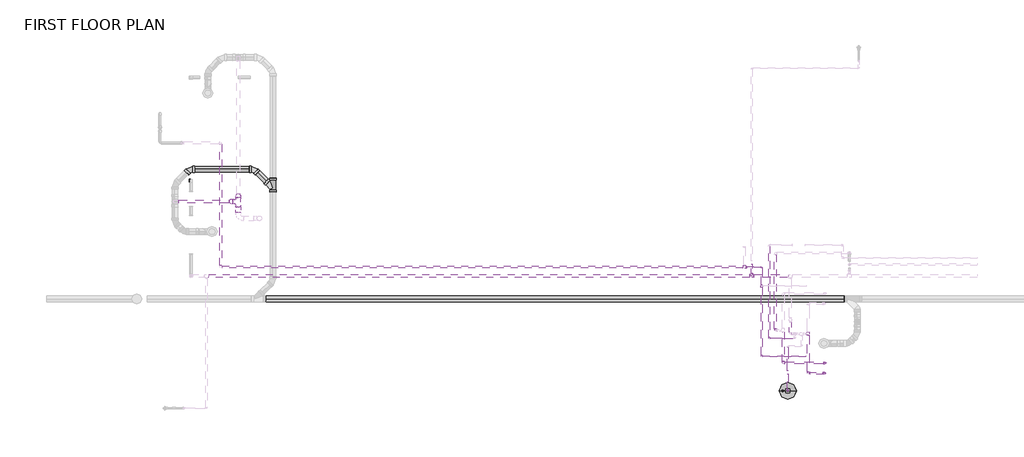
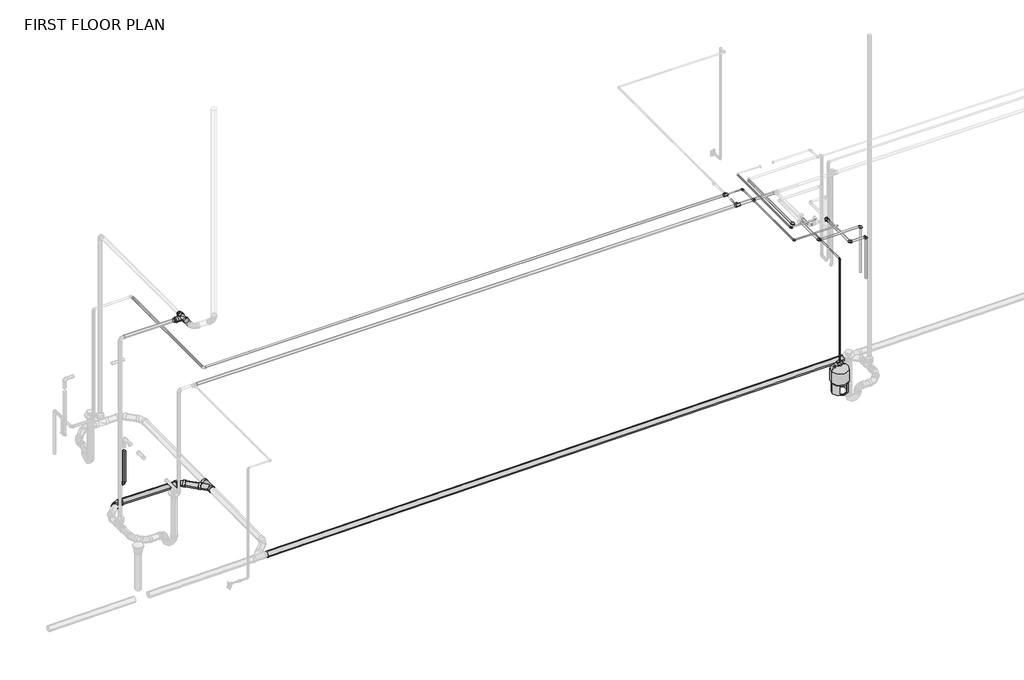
# One storey, part 3 of 9: 29 pipe segments, 24 pipe fittings, 1 proxy.
"""IFC4 building model written with IfcOpenShell, lengths in millimetres."""

from ifc_helpers import new_model, si_unit, point, frame, frame_2d, origin, place, context, project, spatial, circle_curve, trimmed, segment, composite_curve, outline, extrude, transform, mapped, element, save
from components import tank_expansion_taco_pax_error_load_type_catalog_ec3dda8b, bend_pvc_sch_40_dwv_standard_d299c5eb, bend_pvc_sch_40_dwv_standard_6f29ffc9, ges_wye_45_deg_reducing_pvc_sch_40_dwv_standard_d5e102ba, pipe_elbow_copper_k_764eecca, pipe_elbow_copper_k_feaaf02c, pipe_elbow_copper_k_557be1fc, pipe_elbow_copper_k_d9236e9c, pipe_tee_copper_k_36278b8a, pipe_tee_copper_k_7127fd44, pipe_tee_copper_k_ee363fbf, pipe_transition_copper_k_d15df449, pipe_transition_copper_k_5615079d, pipe_transition_copper_k_6dd60ac0, pipe_transition_copper_k_46d96269, reducer_pvc_sch_40_dwv_standard_464ee0c2, reducer_pvc_sch_40_dwv_standard_44865e00, tee_sanitary_pvc_sch_40_dwv_standard_d77f13d0

model = new_model("IFC4")

# Units and contexts
model_context = context("Model", 3, world=origin())
ifc_project = project(units=[si_unit("LENGTHUNIT", "METRE", prefix="MILLI")], contexts=[model_context])

# Site, building, storey
site = spatial("IfcSite", under=ifc_project)
building = spatial("IfcBuilding", under=site)
storey = spatial("IfcBuildingStorey", under=building, Name="FIRST FLOOR PLAN", Elevation=0.0)

# Proxy
placement = place(None, origin())
tank_expansion_taco_pax_error_load_type_catalog_shape = tank_expansion_taco_pax_error_load_type_catalog_ec3dda8b(model_context)
element("IfcBuildingElementProxy", 1, Name="Tank-Expansion-Taco-PAX : ERROR_LOAD TYPE CATALOG", ObjectType="Tank-Expansion-Taco-PAX : ERROR_LOAD TYPE CATALOG", at=placement, inside=storey, context=model_context, shape_type="MappedRepresentation", body=[
    mapped(tank_expansion_taco_pax_error_load_type_catalog_shape, transform((-1749.0378963, 3347.310529, -16.0176562), x_axis=(1.0, 0.0, 0.0), y_axis=(0.0, 1.0, 0.0), z_axis=(0.0, 0.0, 1.0))),
])

# Pipe fittings
bend_pvc_sch_40_dwv_standard_shape = bend_pvc_sch_40_dwv_standard_d299c5eb(model_context)
element("IfcPipeFitting", 2, ObjectType="Bend - PVC - Sch 40 - DWV : Standard", at=placement, inside=storey, context=model_context, shape_type="MappedRepresentation", body=[
    mapped(bend_pvc_sch_40_dwv_standard_shape, transform((-13954.9204409, 7876.5190491, -919.4185554), x_axis=(-0.9999457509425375, 0.0, 0.010416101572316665), y_axis=(4.493975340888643e-05, -0.9999906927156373, 0.004314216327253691), z_axis=(0.010416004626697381, 0.00431445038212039, 0.9999364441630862))),
])
bend_pvc_sch_40_dwv_standard_2_shape = bend_pvc_sch_40_dwv_standard_6f29ffc9(model_context)
element("IfcPipeFitting", 3, ObjectType="Bend - PVC - Sch 40 - DWV : Standard", at=placement, inside=storey, context=model_context, shape_type="MappedRepresentation", body=[
    mapped(bend_pvc_sch_40_dwv_standard_2_shape, transform((-12645.3324902, 7876.5190491, -933.0600965), x_axis=(-0.7070634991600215, 0.7070839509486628, 0.00966925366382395), y_axis=(-0.7070733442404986, -0.7071221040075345, 0.0050612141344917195), z_axis=(0.010416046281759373, -0.0032582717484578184, 0.9999404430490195))),
])
ges_wye_45_deg_reducing_pvc_sch_40_dwv_standard_shape = ges_wye_45_deg_reducing_pvc_sch_40_dwv_standard_d5e102ba(model_context)
element("IfcPipeFitting", 4, ObjectType="GES Wye 45 Deg Reducing - PVC - Sch 40 - DWV : Standard", at=placement, inside=storey, context=model_context, shape_type="MappedRepresentation", body=[
    mapped(ges_wye_45_deg_reducing_pvc_sch_40_dwv_standard_shape, transform((-12259.2496823, 7490.4250738, -938.3398664), x_axis=(0.0, 0.9999457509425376, 0.010416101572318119), y_axis=(0.9999946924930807, 3.3936332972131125e-05, -0.0032578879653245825), z_axis=(-0.0032580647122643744, 0.01041604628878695, -0.9999404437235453))),
])
pipe_elbow_copper_k_shape = pipe_elbow_copper_k_764eecca(model_context)
element("IfcPipeFitting", 5, ObjectType="Pipe Elbow : Copper- K", at=placement, inside=storey, context=model_context, shape_type="MappedRepresentation", body=[
    mapped(pipe_elbow_copper_k_shape, transform((-13933.0661682, 7642.1354003, -345.0294199), x_axis=(0.0, 0.0, -1.0), y_axis=(-1.0, 0.0, 0.0), z_axis=(0.0, 1.0, 0.0))),
])
pipe_elbow_copper_k_2_shape = pipe_elbow_copper_k_feaaf02c(model_context)
element("IfcPipeFitting", 6, ObjectType="Pipe Elbow : Copper- K", at=placement, inside=storey, context=model_context, shape_type="MappedRepresentation", body=[
    mapped(pipe_elbow_copper_k_2_shape, transform((-2130.0378963, 4419.3099803, 3007.2210937), x_axis=(0.0, -1.0, 0.0), y_axis=(1.0, 0.0, 0.0), z_axis=(0.0, 0.0, 1.0))),
])
element("IfcPipeFitting", 7, ObjectType="Pipe Elbow : Copper- K", at=placement, inside=storey, context=model_context, shape_type="MappedRepresentation", body=[
    mapped(pipe_elbow_copper_k_2_shape, transform((-2282.4378963, 5875.2835918, 3007.8164062), x_axis=(0.0, 1.0, 0.0), y_axis=(-1.0, 0.0, 0.0), z_axis=(0.0, 0.0, 1.0))),
])
element("IfcPipeFitting", 8, ObjectType="Pipe Elbow : Copper- K", at=placement, inside=storey, context=model_context, shape_type="MappedRepresentation", body=[
    mapped(pipe_elbow_copper_k_2_shape, transform((-2282.4378963, 4052.1605294, 3007.8164062), x_axis=(0.0, -1.0, 0.0), y_axis=(1.0, 0.0, 0.0), z_axis=(0.0, 0.0, 1.0))),
])
element("IfcPipeFitting", 9, ObjectType="Pipe Elbow : Copper- K", at=placement, inside=storey, context=model_context, shape_type="MappedRepresentation", body=[
    mapped(pipe_elbow_copper_k_2_shape, transform((-1749.0378963, 3347.310529, 2847.578125), x_axis=(0.0, 0.0, 1.0), y_axis=(0.0, 1.0, 0.0), z_axis=(-1.0, 0.0, 0.0))),
])
pipe_elbow_copper_k_3_shape = pipe_elbow_copper_k_557be1fc(model_context)
element("IfcPipeFitting", 10, ObjectType="Pipe Elbow : Copper- K", at=placement, inside=storey, context=model_context, shape_type="MappedRepresentation", body=[
    mapped(pipe_elbow_copper_k_3_shape, transform((-989.5398963, 3915.8774765, 2942.828125), x_axis=(0.0, 0.0, 1.0), y_axis=(-1.0, 0.0, 0.0), z_axis=(0.0, -1.0, 0.0))),
])
element("IfcPipeFitting", 11, ObjectType="Pipe Elbow : Copper- K", at=placement, inside=storey, context=model_context, shape_type="MappedRepresentation", body=[
    mapped(pipe_elbow_copper_k_3_shape, transform((-1331.5598228, 3707.8122305, 2847.5409205), x_axis=(0.0, -0.9999999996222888, -2.748494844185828e-05), y_axis=(0.9999999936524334, -3.096802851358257e-09, 0.00011267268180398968), z_axis=(-0.00011267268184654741, -2.748494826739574e-05, 0.9999999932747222))),
])
element("IfcPipeFitting", 12, ObjectType="Pipe Elbow : Copper- K", at=placement, inside=storey, context=model_context, shape_type="MappedRepresentation", body=[
    mapped(pipe_elbow_copper_k_3_shape, transform((-1844.2878963, 3915.8774765, 2942.828125), x_axis=(0.0, -1.0, 0.0), y_axis=(1.0, 0.0, 0.0), z_axis=(0.0, 0.0, 1.0))),
])
element("IfcPipeFitting", 13, ObjectType="Pipe Elbow : Copper- K", at=placement, inside=storey, context=model_context, shape_type="MappedRepresentation", body=[
    mapped(pipe_elbow_copper_k_3_shape, transform((-2003.0378963, 4586.9377286, 2942.828125), x_axis=(0.0, -1.0, 0.0), y_axis=(1.0, 0.0, 0.0), z_axis=(0.0, 0.0, 1.0))),
])
pipe_elbow_copper_k_4_shape = pipe_elbow_copper_k_d9236e9c(model_context)
element("IfcPipeFitting", 14, ObjectType="Pipe Elbow : Copper- K", at=placement, inside=storey, context=model_context, shape_type="MappedRepresentation", body=[
    mapped(pipe_elbow_copper_k_4_shape, transform((-1001.3598228, 3707.8122306, 2847.578125), x_axis=(0.9999999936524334, 0.0, 0.00011267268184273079), y_axis=(-0.00011267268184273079, 0.0, 0.9999999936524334), z_axis=(0.0, -1.0, 0.0))),
])
pipe_tee_copper_k_shape = pipe_tee_copper_k_36278b8a(model_context)
element("IfcPipeFitting", 15, ObjectType="Pipe Tee : Copper- K", at=placement, inside=storey, context=model_context, shape_type="MappedRepresentation", body=[
    mapped(pipe_tee_copper_k_shape, transform((-2485.6378963, 5696.5205406, 2847.5440079), x_axis=(1.0, 0.0, 0.0), y_axis=(0.0, -1.0, 0.0), z_axis=(0.0, 0.0, -1.0))),
])
pipe_tee_copper_k_2_shape = pipe_tee_copper_k_7127fd44(model_context)
element("IfcPipeFitting", 16, ObjectType="Pipe Tee : Copper- K", at=placement, inside=storey, context=model_context, shape_type="MappedRepresentation", body=[
    mapped(pipe_tee_copper_k_2_shape, transform((-2631.2139631, 5875.2835918, 3007.8164062), x_axis=(-1.0, 0.0, 0.0), y_axis=(0.0, -1.0, 0.0), z_axis=(0.0, 0.0, 1.0))),
])
pipe_tee_copper_k_3_shape = pipe_tee_copper_k_ee363fbf(model_context)
element("IfcPipeFitting", 17, ObjectType="Pipe Tee : Copper- K", at=placement, inside=storey, context=model_context, shape_type="MappedRepresentation", body=[
    mapped(pipe_tee_copper_k_3_shape, transform((-2282.4378963, 5488.2979913, 3007.8164062), x_axis=(0.0, 1.0, 0.0), y_axis=(-1.0, 0.0, 0.0), z_axis=(0.0, 0.0, 1.0))),
])
element("IfcPipeFitting", 18, ObjectType="Pipe Tee : Copper- K", at=placement, inside=storey, context=model_context, shape_type="MappedRepresentation", body=[
    mapped(pipe_tee_copper_k_2_shape, transform((-1331.5598228, 4515.7105293, 2847.5620266), x_axis=(0.0, 0.9999999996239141, 2.742575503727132e-05), y_axis=(0.9999999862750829, -4.54389676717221e-09, 0.0001656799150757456), z_axis=(0.0001656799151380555, 2.7425754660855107e-05, -0.9999999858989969))),
])
pipe_transition_copper_k_shape = pipe_transition_copper_k_d15df449(model_context)
element("IfcPipeFitting", 19, ObjectType="Pipe Transition : Copper- K", at=placement, inside=storey, context=model_context, shape_type="MappedRepresentation", body=[
    mapped(pipe_transition_copper_k_shape, transform((-2594.7014631, 5875.2835918, 3007.8164062), x_axis=(1.0, 0.0, 0.0), y_axis=(0.0, 1.0, 0.0), z_axis=(0.0, 0.0, 1.0))),
])
pipe_transition_copper_k_2_shape = pipe_transition_copper_k_5615079d(model_context)
element("IfcPipeFitting", 20, ObjectType="Pipe Transition : Copper- K", at=placement, inside=storey, context=model_context, shape_type="MappedRepresentation", body=[
    mapped(pipe_transition_copper_k_2_shape, transform((-2631.2139631, 5911.7960918, 3007.8164062), x_axis=(0.0, 1.0, 0.0), y_axis=(-1.0, 0.0, 0.0), z_axis=(0.0, 0.0, 1.0))),
])
pipe_transition_copper_k_3_shape = pipe_transition_copper_k_6dd60ac0(model_context)
element("IfcPipeFitting", 21, ObjectType="Pipe Transition : Copper- K", at=placement, inside=storey, context=model_context, shape_type="MappedRepresentation", body=[
    mapped(pipe_transition_copper_k_3_shape, transform((-2485.6378963, 5739.3830406, 2847.5440079), x_axis=(0.0, 1.0, 0.0), y_axis=(-1.0, 0.0, 0.0), z_axis=(0.0, 0.0, 1.0))),
])
pipe_transition_copper_k_4_shape = pipe_transition_copper_k_46d96269(model_context)
element("IfcPipeFitting", 22, ObjectType="Pipe Transition : Copper- K", at=placement, inside=storey, context=model_context, shape_type="MappedRepresentation", body=[
    mapped(pipe_transition_copper_k_4_shape, transform((-1749.0378963, 3347.310529, 631.6823438), x_axis=(0.0, 0.0, 1.0), y_axis=(-1.0, 0.0, 0.0), z_axis=(0.0, -1.0, 0.0))),
])
reducer_pvc_sch_40_dwv_standard_shape = reducer_pvc_sch_40_dwv_standard_464ee0c2(model_context)
element("IfcPipeFitting", 23, ObjectType="Reducer - PVC - Sch 40 - DWV : Standard", at=placement, inside=storey, context=model_context, shape_type="MappedRepresentation", body=[
    mapped(reducer_pvc_sch_40_dwv_standard_shape, transform((-13083.506628, 7216.9695777, 3161.3113281), x_axis=(-1.0, 0.0, 0.0), y_axis=(0.0, -0.9999999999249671, -1.2250138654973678e-05), z_axis=(0.0, -1.2250138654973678e-05, 0.9999999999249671))),
])
reducer_pvc_sch_40_dwv_standard_2_shape = reducer_pvc_sch_40_dwv_standard_44865e00(model_context)
element("IfcPipeFitting", 24, ObjectType="Reducer - PVC - Sch 40 - DWV : Standard", at=placement, inside=storey, context=model_context, shape_type="MappedRepresentation", body=[
    mapped(reducer_pvc_sch_40_dwv_standard_2_shape, transform((-12967.606428, 7380.4693777, 3161.3123193), x_axis=(0.0, -0.9999999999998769, 4.962133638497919e-07), y_axis=(1.0, 0.0, 0.0), z_axis=(0.0, 4.962133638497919e-07, 0.9999999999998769))),
])
tee_sanitary_pvc_sch_40_dwv_standard_shape = tee_sanitary_pvc_sch_40_dwv_standard_d77f13d0(model_context)
element("IfcPipeFitting", 25, ObjectType="Tee Sanitary - PVC - Sch 40 - DWV : Standard", at=placement, inside=storey, context=model_context, shape_type="MappedRepresentation", body=[
    mapped(tee_sanitary_pvc_sch_40_dwv_standard_shape, transform((-12967.606428, 7216.9695777, 3161.3113281), x_axis=(0.0, 0.9999999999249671, 1.2250138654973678e-05), y_axis=(1.0000000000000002, 0.0, 0.0), z_axis=(0.0, 1.2250138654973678e-05, -0.9999999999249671))),
])

# Pipe segments
element("IfcPipeSegment", 26, ObjectType="Cast Iron - VENT", at=placement, inside=storey, context=model_context, shape_type="SweptSolid", body=[
    extrude(outline(composite_curve([segment(trimmed(circle_curve(frame_2d((0.0, 30.1625)), 30.1625), [point((-30.1625, 30.1625))], [point((0.0, 60.325))], False, "CARTESIAN"), True, "CONTINUOUS"), segment(trimmed(circle_curve(frame_2d((0.0, 30.1625)), 30.1625), [point((0.0, 60.325))], [point((30.1625, 30.1625))], False, "CARTESIAN"), True, "CONTINUOUS"), segment(trimmed(circle_curve(frame_2d((0.0, 30.1625)), 30.1625), [point((30.1625, 30.1625))], [point((0.0, 0.0))], False, "CARTESIAN"), True, "CONTINUOUS"), segment(trimmed(circle_curve(frame_2d((0.0, 30.1625)), 30.1625), [point((0.0, 0.0))], [point((-30.1625, 30.1625))], False, "CARTESIAN"), True, "CONTINUOUS")], self_intersect=False)), frame((-13162.8826652, 7216.9695777, 3131.1488281), z_axis=(-0.9999999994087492, 0.0, 3.438752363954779e-05), x_axis=(0.0, -1.0, 0.0)), (0.0, 0.0, 1.0), 1019.2283469),
])
element("IfcPipeSegment", 27, ObjectType="Cast Iron - VENT", at=placement, inside=storey, context=model_context, shape_type="SweptSolid", body=[
    extrude(outline(composite_curve([segment(trimmed(circle_curve(frame_2d((3161.3099083, -12967.606428)), 50.403125), [point((3161.3099083, -13018.009553))], [point((3110.9067833, -12967.606428))], False, "CARTESIAN"), True, "CONTINUOUS"), segment(trimmed(circle_curve(frame_2d((3161.3099083, -12967.606428)), 50.403125), [point((3110.9067833, -12967.606428))], [point((3161.3099083, -12917.203303))], False, "CARTESIAN"), True, "CONTINUOUS"), segment(trimmed(circle_curve(frame_2d((3161.3099083, -12967.606428)), 50.403125), [point((3161.3099083, -12917.203303))], [point((3211.7130333, -12967.606428))], False, "CARTESIAN"), True, "CONTINUOUS"), segment(trimmed(circle_curve(frame_2d((3161.3099083, -12967.606428)), 50.403125), [point((3211.7130333, -12967.606428))], [point((3161.3099083, -13018.009553))], False, "CARTESIAN"), True, "CONTINUOUS")], self_intersect=False)), frame((0.0, 6988.7348554, 0.0), z_axis=(0.0, 1.0, 0.0), x_axis=(0.0, 0.0, 1.0)), (0.0, 0.0, 1.0), 112.3345223),
])
element("IfcPipeSegment", 28, ObjectType="Copper", at=placement, inside=storey, context=model_context, shape_type="SweptSolid", body=[
    extrude(outline(composite_curve([segment(trimmed(circle_curve(frame_2d((-13933.0661682, 7642.1354003)), 26.9875), [point((-13906.0786682, 7642.1354003))], [point((-13933.0661682, 7615.1479003))], False, "CARTESIAN"), True, "CONTINUOUS"), segment(trimmed(circle_curve(frame_2d((-13933.0661682, 7642.1354003)), 26.9875), [point((-13933.0661682, 7615.1479003))], [point((-13960.0536682, 7642.1354003))], False, "CARTESIAN"), True, "CONTINUOUS"), segment(trimmed(circle_curve(frame_2d((-13933.0661682, 7642.1354003)), 26.9875), [point((-13960.0536682, 7642.1354003))], [point((-13933.0661682, 7669.1229003))], False, "CARTESIAN"), True, "CONTINUOUS"), segment(trimmed(circle_curve(frame_2d((-13933.0661682, 7642.1354003)), 26.9875), [point((-13933.0661682, 7669.1229003))], [point((-13906.0786682, 7642.1354003))], False, "CARTESIAN"), True, "CONTINUOUS")], self_intersect=False)), frame((0.0, 0.0, -308.5169199), z_axis=(0.0, 0.0, 1.0), x_axis=(1.0, 0.0, 0.0)), (0.0, 0.0, 1.0), 668.9111699),
])
element("IfcPipeSegment", 29, ObjectType="Copper", at=placement, inside=storey, context=model_context, shape_type="SweptSolid", body=[
    extrude(outline(composite_curve([segment(trimmed(circle_curve(frame_2d((-989.5398963, 3915.8774765)), 20.6375), [point((-1010.1773963, 3915.8774765))], [point((-989.5398963, 3936.5149765))], False, "CARTESIAN"), True, "CONTINUOUS"), segment(trimmed(circle_curve(frame_2d((-989.5398963, 3915.8774765)), 20.6375), [point((-989.5398963, 3936.5149765))], [point((-968.9023963, 3915.8774765))], False, "CARTESIAN"), True, "CONTINUOUS"), segment(trimmed(circle_curve(frame_2d((-989.5398963, 3915.8774765)), 20.6375), [point((-968.9023963, 3915.8774765))], [point((-989.5398963, 3895.2399765))], False, "CARTESIAN"), True, "CONTINUOUS"), segment(trimmed(circle_curve(frame_2d((-989.5398963, 3915.8774765)), 20.6375), [point((-989.5398963, 3895.2399765))], [point((-1010.1773963, 3915.8774765))], False, "CARTESIAN"), True, "CONTINUOUS")], self_intersect=False)), frame((0.0, 0.0, 1952.228125), z_axis=(0.0, 0.0, 1.0), x_axis=(1.0, 0.0, 0.0)), (0.0, 0.0, 1.0), 960.4375),
])
element("IfcPipeSegment", 30, ObjectType="Copper", at=placement, inside=storey, context=model_context, shape_type="SweptSolid", body=[
    extrude(outline(composite_curve([segment(trimmed(circle_curve(frame_2d((3915.8774765, 2942.828125)), 20.6375), [point((3936.5149765, 2942.828125))], [point((3915.8774765, 2922.190625))], False, "CARTESIAN"), True, "CONTINUOUS"), segment(trimmed(circle_curve(frame_2d((3915.8774765, 2942.828125)), 20.6375), [point((3915.8774765, 2922.190625))], [point((3895.2399765, 2942.828125))], False, "CARTESIAN"), True, "CONTINUOUS"), segment(trimmed(circle_curve(frame_2d((3915.8774765, 2942.828125)), 20.6375), [point((3895.2399765, 2942.828125))], [point((3915.8774765, 2963.465625))], False, "CARTESIAN"), True, "CONTINUOUS"), segment(trimmed(circle_curve(frame_2d((3915.8774765, 2942.828125)), 20.6375), [point((3915.8774765, 2963.465625))], [point((3936.5149765, 2942.828125))], False, "CARTESIAN"), True, "CONTINUOUS")], self_intersect=False)), frame((-1814.1253963, 0.0, 0.0), z_axis=(1.0, 0.0, 0.0), x_axis=(0.0, 1.0, 0.0)), (0.0, 0.0, 1.0), 794.423),
])
element("IfcPipeSegment", 31, ObjectType="Copper", at=placement, inside=storey, context=model_context, shape_type="SweptSolid", body=[
    extrude(outline(composite_curve([segment(trimmed(circle_curve(frame_2d((2942.828125, -2003.0378963)), 20.6375), [point((2942.828125, -2023.6753963))], [point((2922.190625, -2003.0378963))], False, "CARTESIAN"), True, "CONTINUOUS"), segment(trimmed(circle_curve(frame_2d((2942.828125, -2003.0378963)), 20.6375), [point((2922.190625, -2003.0378963))], [point((2942.828125, -1982.4003963))], False, "CARTESIAN"), True, "CONTINUOUS"), segment(trimmed(circle_curve(frame_2d((2942.828125, -2003.0378963)), 20.6375), [point((2942.828125, -1982.4003963))], [point((2963.465625, -2003.0378963))], False, "CARTESIAN"), True, "CONTINUOUS"), segment(trimmed(circle_curve(frame_2d((2942.828125, -2003.0378963)), 20.6375), [point((2963.465625, -2003.0378963))], [point((2942.828125, -2023.6753963))], False, "CARTESIAN"), True, "CONTINUOUS")], self_intersect=False)), frame((0.0, 4617.1002286, 0.0), z_axis=(0.0, 1.0, 0.0), x_axis=(0.0, 0.0, 1.0)), (0.0, 0.0, 1.0), 1518.8959979),
])
element("IfcPipeSegment", 32, ObjectType="Copper", at=placement, inside=storey, context=model_context, shape_type="SweptSolid", body=[
    extrude(outline(composite_curve([segment(trimmed(circle_curve(frame_2d((2942.828125, -1844.2878963)), 20.6375), [point((2942.828125, -1864.9253963))], [point((2922.190625, -1844.2878963))], False, "CARTESIAN"), True, "CONTINUOUS"), segment(trimmed(circle_curve(frame_2d((2942.828125, -1844.2878963)), 20.6375), [point((2922.190625, -1844.2878963))], [point((2942.828125, -1823.6503963))], False, "CARTESIAN"), True, "CONTINUOUS"), segment(trimmed(circle_curve(frame_2d((2942.828125, -1844.2878963)), 20.6375), [point((2942.828125, -1823.6503963))], [point((2963.465625, -1844.2878963))], False, "CARTESIAN"), True, "CONTINUOUS"), segment(trimmed(circle_curve(frame_2d((2942.828125, -1844.2878963)), 20.6375), [point((2963.465625, -1844.2878963))], [point((2942.828125, -1864.9253963))], False, "CARTESIAN"), True, "CONTINUOUS")], self_intersect=False)), frame((0.0, 3946.0399765, 0.0), z_axis=(0.0, 1.0, 0.0), x_axis=(0.0, 0.0, 1.0)), (0.0, 0.0, 1.0), 604.3852521),
])
element("IfcPipeSegment", 33, ObjectType="Copper", at=placement, inside=storey, context=model_context, shape_type="SweptSolid", body=[
    extrude(outline(composite_curve([segment(trimmed(circle_curve(frame_2d((0.0, 20.6375)), 20.6375), [point((-20.6375, 20.6375))], [point((0.0, 41.275))], False, "CARTESIAN"), True, "CONTINUOUS"), segment(trimmed(circle_curve(frame_2d((0.0, 20.6375)), 20.6375), [point((0.0, 41.275))], [point((20.6375, 20.6375))], False, "CARTESIAN"), True, "CONTINUOUS"), segment(trimmed(circle_curve(frame_2d((0.0, 20.6375)), 20.6375), [point((20.6375, 20.6375))], [point((0.0, 0.0))], False, "CARTESIAN"), True, "CONTINUOUS"), segment(trimmed(circle_curve(frame_2d((0.0, 20.6375)), 20.6375), [point((0.0, 0.0))], [point((-20.6375, 20.6375))], False, "CARTESIAN"), True, "CONTINUOUS")], self_intersect=False)), frame((-1301.3949977, 3707.8122304, 2826.9068191), z_axis=(0.9999999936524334, 0.0, 0.00011267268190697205), x_axis=(0.0, 1.0, 0.0)), (0.0, 0.0, 1.0), 269.8716034),
])
element("IfcPipeSegment", 34, ObjectType="Copper", at=placement, inside=storey, context=model_context, shape_type="SweptSolid", body=[
    extrude(outline(composite_curve([segment(trimmed(circle_curve(frame_2d((-1001.3598228, 3707.8122306)), 20.6375), [point((-980.7223228, 3707.8122306))], [point((-1001.3598228, 3687.1747306))], False, "CARTESIAN"), True, "CONTINUOUS"), segment(trimmed(circle_curve(frame_2d((-1001.3598228, 3707.8122306)), 20.6375), [point((-1001.3598228, 3687.1747306))], [point((-1021.9973228, 3707.8122306))], False, "CARTESIAN"), True, "CONTINUOUS"), segment(trimmed(circle_curve(frame_2d((-1001.3598228, 3707.8122306)), 20.6375), [point((-1021.9973228, 3707.8122306))], [point((-1001.3598228, 3728.4497306))], False, "CARTESIAN"), True, "CONTINUOUS"), segment(trimmed(circle_curve(frame_2d((-1001.3598228, 3707.8122306)), 20.6375), [point((-1001.3598228, 3728.4497306))], [point((-980.7223228, 3707.8122306))], False, "CARTESIAN"), True, "CONTINUOUS")], self_intersect=False)), frame((0.0, 0.0, 1952.228125), z_axis=(0.0, 0.0, 1.0), x_axis=(1.0, 0.0, 0.0)), (0.0, 0.0, 1.0), 865.1841013),
])
element("IfcPipeSegment", 35, ObjectType="Copper", at=placement, inside=storey, context=model_context, shape_type="SweptSolid", body=[
    extrude(outline(composite_curve([segment(trimmed(circle_curve(frame_2d((0.0, -20.6375)), 20.6375), [point((0.0, 0.0))], [point((20.6375, -20.6375))], False, "CARTESIAN"), True, "CONTINUOUS"), segment(trimmed(circle_curve(frame_2d((0.0, -20.6375)), 20.6375), [point((20.6375, -20.6375))], [point((0.0, -41.275))], False, "CARTESIAN"), True, "CONTINUOUS"), segment(trimmed(circle_curve(frame_2d((0.0, -20.6375)), 20.6375), [point((0.0, -41.275))], [point((-20.6375, -20.6375))], False, "CARTESIAN"), True, "CONTINUOUS"), segment(trimmed(circle_curve(frame_2d((0.0, -20.6375)), 20.6375), [point((-20.6375, -20.6375))], [point((0.0, 0.0))], False, "CARTESIAN"), True, "CONTINUOUS")], self_intersect=False)), frame((-1352.1973228, 3737.9747305, 2847.5417495), z_axis=(0.0, 0.9999999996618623, 2.6005299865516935e-05), x_axis=(0.0, 2.6005299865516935e-05, -0.9999999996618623)), (0.0, 0.0, 1.0), 741.2232991),
])
element("IfcPipeSegment", 36, ObjectType="Copper", at=placement, inside=storey, context=model_context, shape_type="SweptSolid", body=[
    extrude(outline(composite_curve([segment(trimmed(circle_curve(frame_2d((0.0, -20.6375)), 20.6375), [point((0.0, 0.0))], [point((20.6374999, -20.6375))], False, "CARTESIAN"), True, "CONTINUOUS"), segment(trimmed(circle_curve(frame_2d((0.0, -20.6375)), 20.6375), [point((20.6374999, -20.6375))], [point((0.0, -41.275))], False, "CARTESIAN"), True, "CONTINUOUS"), segment(trimmed(circle_curve(frame_2d((0.0, -20.6375)), 20.6375), [point((0.0, -41.275))], [point((-20.6375, -20.6375))], False, "CARTESIAN"), True, "CONTINUOUS"), segment(trimmed(circle_curve(frame_2d((0.0, -20.6375)), 20.6375), [point((-20.6375, -20.6375))], [point((0.0, 0.0))], False, "CARTESIAN"), True, "CONTINUOUS")], self_intersect=False)), frame((-1718.8753963, 4545.8730293, 2847.5505568), z_axis=(0.0, 0.9999999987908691, 4.9175826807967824e-05), x_axis=(0.0, 4.9175826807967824e-05, -0.9999999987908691)), (0.0, 0.0, 1.0), 205.2804889),
])
element("IfcPipeSegment", 37, ObjectType="Copper", at=placement, inside=storey, context=model_context, shape_type="SweptSolid", body=[
    extrude(outline(composite_curve([segment(trimmed(circle_curve(frame_2d((3007.2210937, -2130.0378963)), 11.1125), [point((3007.2210937, -2141.1503963))], [point((2996.1085937, -2130.0378963))], False, "CARTESIAN"), True, "CONTINUOUS"), segment(trimmed(circle_curve(frame_2d((3007.2210937, -2130.0378963)), 11.1125), [point((2996.1085937, -2130.0378963))], [point((3007.2210937, -2118.9253963))], False, "CARTESIAN"), True, "CONTINUOUS"), segment(trimmed(circle_curve(frame_2d((3007.2210937, -2130.0378963)), 11.1125), [point((3007.2210937, -2118.9253963))], [point((3018.3335937, -2130.0378963))], False, "CARTESIAN"), True, "CONTINUOUS"), segment(trimmed(circle_curve(frame_2d((3007.2210937, -2130.0378963)), 11.1125), [point((3018.3335937, -2130.0378963))], [point((3007.2210937, -2141.1503963))], False, "CARTESIAN"), True, "CONTINUOUS")], self_intersect=False)), frame((0.0, 4439.9474803, 0.0), z_axis=(0.0, 1.0, 0.0), x_axis=(0.0, 0.0, 1.0)), (0.0, 0.0, 1.0), 1869.9162187),
])
element("IfcPipeSegment", 38, ObjectType="Copper", at=placement, inside=storey, context=model_context, shape_type="SweptSolid", body=[
    extrude(outline(composite_curve([segment(trimmed(circle_curve(frame_2d((4419.3099803, 3007.2210937)), 11.1125), [point((4408.1974803, 3007.2210937))], [point((4419.3099803, 3018.3335937))], False, "CARTESIAN"), True, "CONTINUOUS"), segment(trimmed(circle_curve(frame_2d((4419.3099803, 3007.2210937)), 11.1125), [point((4419.3099803, 3018.3335937))], [point((4430.4224803, 3007.2210937))], False, "CARTESIAN"), True, "CONTINUOUS"), segment(trimmed(circle_curve(frame_2d((4419.3099803, 3007.2210937)), 11.1125), [point((4430.4224803, 3007.2210937))], [point((4419.3099803, 2996.1085937))], False, "CARTESIAN"), True, "CONTINUOUS"), segment(trimmed(circle_curve(frame_2d((4419.3099803, 3007.2210937)), 11.1125), [point((4419.3099803, 2996.1085937))], [point((4408.1974803, 3007.2210937))], False, "CARTESIAN"), True, "CONTINUOUS")], self_intersect=False)), frame((-2109.4003963, 0.0, 0.0), z_axis=(1.0, 0.0, 0.0), x_axis=(0.0, 1.0, 0.0)), (0.0, 0.0, 1.0), 485.775),
])
element("IfcPipeSegment", 39, ObjectType="Copper", at=placement, inside=storey, context=model_context, shape_type="SweptSolid", body=[
    extrude(outline(composite_curve([segment(trimmed(circle_curve(frame_2d((5696.5205406, 2847.5440079)), 26.9875), [point((5723.5080406, 2847.5440079))], [point((5696.5205406, 2820.5565079))], False, "CARTESIAN"), True, "CONTINUOUS"), segment(trimmed(circle_curve(frame_2d((5696.5205406, 2847.5440079)), 26.9875), [point((5696.5205406, 2820.5565079))], [point((5669.5330406, 2847.5440079))], False, "CARTESIAN"), True, "CONTINUOUS"), segment(trimmed(circle_curve(frame_2d((5696.5205406, 2847.5440079)), 26.9875), [point((5669.5330406, 2847.5440079))], [point((5696.5205406, 2874.5315079))], False, "CARTESIAN"), True, "CONTINUOUS"), segment(trimmed(circle_curve(frame_2d((5696.5205406, 2847.5440079)), 26.9875), [point((5696.5205406, 2874.5315079))], [point((5723.5080406, 2847.5440079))], False, "CARTESIAN"), True, "CONTINUOUS")], self_intersect=False)), frame((-13574.0078963, 0.0, 0.0), z_axis=(1.0, 0.0, 0.0), x_axis=(0.0, 1.0, 0.0)), (0.0, 0.0, 1.0), 11045.5075),
])
element("IfcPipeSegment", 40, ObjectType="Copper", at=placement, inside=storey, context=model_context, shape_type="SweptSolid", body=[
    extrude(outline(composite_curve([segment(trimmed(circle_curve(frame_2d((3007.8164062, -13326.6545177)), 20.6375), [point((3007.8164062, -13347.2920177))], [point((2987.1789062, -13326.6545177))], False, "CARTESIAN"), True, "CONTINUOUS"), segment(trimmed(circle_curve(frame_2d((3007.8164062, -13326.6545177)), 20.6375), [point((2987.1789062, -13326.6545177))], [point((3007.8164062, -13306.0170177))], False, "CARTESIAN"), True, "CONTINUOUS"), segment(trimmed(circle_curve(frame_2d((3007.8164062, -13326.6545177)), 20.6375), [point((3007.8164062, -13306.0170177))], [point((3028.4539062, -13326.6545177))], False, "CARTESIAN"), True, "CONTINUOUS"), segment(trimmed(circle_curve(frame_2d((3007.8164062, -13326.6545177)), 20.6375), [point((3028.4539062, -13326.6545177))], [point((3007.8164062, -13347.2920177))], False, "CARTESIAN"), True, "CONTINUOUS")], self_intersect=False)), frame((0.0, 5905.4460918, 0.0), z_axis=(0.0, 1.0, 0.0), x_axis=(0.0, 0.0, 1.0)), (0.0, 0.0, 1.0), 2479.675),
])
element("IfcPipeSegment", 41, ObjectType="Copper", at=placement, inside=storey, context=model_context, shape_type="SweptSolid", body=[
    extrude(outline(composite_curve([segment(trimmed(circle_curve(frame_2d((5875.2835918, 3007.8164062)), 11.1125), [point((5864.1710918, 3007.8164062))], [point((5875.2835918, 3018.9289062))], False, "CARTESIAN"), True, "CONTINUOUS"), segment(trimmed(circle_curve(frame_2d((5875.2835918, 3007.8164062)), 11.1125), [point((5875.2835918, 3018.9289062))], [point((5886.3960918, 3007.8164062))], False, "CARTESIAN"), True, "CONTINUOUS"), segment(trimmed(circle_curve(frame_2d((5875.2835918, 3007.8164062)), 11.1125), [point((5886.3960918, 3007.8164062))], [point((5875.2835918, 2996.7039062))], False, "CARTESIAN"), True, "CONTINUOUS"), segment(trimmed(circle_curve(frame_2d((5875.2835918, 3007.8164062)), 11.1125), [point((5875.2835918, 2996.7039062))], [point((5864.1710918, 3007.8164062))], False, "CARTESIAN"), True, "CONTINUOUS")], self_intersect=False)), frame((-2584.3827131, 0.0, 0.0), z_axis=(1.0, 0.0, 0.0), x_axis=(0.0, 1.0, 0.0)), (0.0, 0.0, 1.0), 281.3073168),
])
element("IfcPipeSegment", 42, ObjectType="Copper", at=placement, inside=storey, context=model_context, shape_type="SweptSolid", body=[
    extrude(outline(composite_curve([segment(trimmed(circle_curve(frame_2d((4052.1605294, 3007.8164062)), 11.1125), [point((4041.0480294, 3007.8164062))], [point((4052.1605294, 3018.9289062))], False, "CARTESIAN"), True, "CONTINUOUS"), segment(trimmed(circle_curve(frame_2d((4052.1605294, 3007.8164062)), 11.1125), [point((4052.1605294, 3018.9289062))], [point((4063.2730294, 3007.8164062))], False, "CARTESIAN"), True, "CONTINUOUS"), segment(trimmed(circle_curve(frame_2d((4052.1605294, 3007.8164062)), 11.1125), [point((4063.2730294, 3007.8164062))], [point((4052.1605294, 2996.7039062))], False, "CARTESIAN"), True, "CONTINUOUS"), segment(trimmed(circle_curve(frame_2d((4052.1605294, 3007.8164062)), 11.1125), [point((4052.1605294, 2996.7039062))], [point((4041.0480294, 3007.8164062))], False, "CARTESIAN"), True, "CONTINUOUS")], self_intersect=False)), frame((-2261.8003963, 0.0, 0.0), z_axis=(1.0, 0.0, 0.0), x_axis=(0.0, 1.0, 0.0)), (0.0, 0.0, 1.0), 881.0625),
])
element("IfcPipeSegment", 43, ObjectType="Copper", at=placement, inside=storey, context=model_context, shape_type="SweptSolid", body=[
    extrude(outline(composite_curve([segment(trimmed(circle_curve(frame_2d((3007.8164062, -2282.4378963)), 11.1125), [point((3007.8164062, -2293.5503963))], [point((2996.7039062, -2282.4378963))], False, "CARTESIAN"), True, "CONTINUOUS"), segment(trimmed(circle_curve(frame_2d((3007.8164062, -2282.4378963)), 11.1125), [point((2996.7039062, -2282.4378963))], [point((3007.8164062, -2271.3253963))], False, "CARTESIAN"), True, "CONTINUOUS"), segment(trimmed(circle_curve(frame_2d((3007.8164062, -2282.4378963)), 11.1125), [point((3007.8164062, -2271.3253963))], [point((3018.9289062, -2282.4378963))], False, "CARTESIAN"), True, "CONTINUOUS"), segment(trimmed(circle_curve(frame_2d((3007.8164062, -2282.4378963)), 11.1125), [point((3018.9289062, -2282.4378963))], [point((3007.8164062, -2293.5503963))], False, "CARTESIAN"), True, "CONTINUOUS")], self_intersect=False)), frame((0.0, 4072.7980294, 0.0), z_axis=(0.0, 1.0, 0.0), x_axis=(0.0, 0.0, 1.0)), (0.0, 0.0, 1.0), 1388.512462),
])
element("IfcPipeSegment", 44, ObjectType="Copper", at=placement, inside=storey, context=model_context, shape_type="SweptSolid", body=[
    extrude(outline(composite_curve([segment(trimmed(circle_curve(frame_2d((5696.5205406, 2847.5440079)), 26.9875), [point((5723.5080406, 2847.5440079))], [point((5696.5205406, 2820.5565079))], False, "CARTESIAN"), True, "CONTINUOUS"), segment(trimmed(circle_curve(frame_2d((5696.5205406, 2847.5440079)), 26.9875), [point((5696.5205406, 2820.5565079))], [point((5669.5330406, 2847.5440079))], False, "CARTESIAN"), True, "CONTINUOUS"), segment(trimmed(circle_curve(frame_2d((5696.5205406, 2847.5440079)), 26.9875), [point((5669.5330406, 2847.5440079))], [point((5696.5205406, 2874.5315079))], False, "CARTESIAN"), True, "CONTINUOUS"), segment(trimmed(circle_curve(frame_2d((5696.5205406, 2847.5440079)), 26.9875), [point((5696.5205406, 2874.5315079))], [point((5723.5080406, 2847.5440079))], False, "CARTESIAN"), True, "CONTINUOUS")], self_intersect=False)), frame((-2442.7753963, 0.0, 0.0), z_axis=(1.0, 0.0, 0.0), x_axis=(0.0, 1.0, 0.0)), (0.0, 0.0, 1.0), 701.675),
])
element("IfcPipeSegment", 45, ObjectType="Copper", at=placement, inside=storey, context=model_context, shape_type="SweptSolid", body=[
    extrude(outline(composite_curve([segment(trimmed(circle_curve(frame_2d((-2e-07, -20.6375)), 20.6374998), [point((-20.6375, -20.6375))], [point((0.0, 0.0))], False, "CARTESIAN"), True, "CONTINUOUS"), segment(trimmed(circle_curve(frame_2d((-2e-07, -20.6375)), 20.6375), [point((0.0, 0.0))], [point((20.6375, -20.6375))], False, "CARTESIAN"), True, "CONTINUOUS"), segment(trimmed(circle_curve(frame_2d((-2e-07, -20.6375)), 20.6375002), [point((20.6375, -20.6375))], [point((0.0, -41.275))], False, "CARTESIAN"), True, "CONTINUOUS"), segment(trimmed(circle_curve(frame_2d((-2e-07, -20.6375)), 20.6375), [point((0.0, -41.275))], [point((-20.6375, -20.6375))], False, "CARTESIAN"), True, "CONTINUOUS")], self_intersect=False)), frame((-1668.0753963, 4515.7105293, 2826.9131395), z_axis=(1.0, 6.665118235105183e-09, 0.0), x_axis=(6.665118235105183e-09, -1.0, 0.0)), (0.0, 0.0, 1.0), 28.575),
])
element("IfcPipeSegment", 46, ObjectType="Copper", at=placement, inside=storey, context=model_context, shape_type="SweptSolid", body=[
    extrude(outline(composite_curve([segment(trimmed(circle_curve(frame_2d((2847.578125, -1749.0378963)), 11.1125), [point((2847.578125, -1760.1503963))], [point((2836.465625, -1749.0378963))], False, "CARTESIAN"), True, "CONTINUOUS"), segment(trimmed(circle_curve(frame_2d((2847.578125, -1749.0378963)), 11.1125), [point((2836.465625, -1749.0378963))], [point((2847.578125, -1737.9253963))], False, "CARTESIAN"), True, "CONTINUOUS"), segment(trimmed(circle_curve(frame_2d((2847.578125, -1749.0378963)), 11.1125), [point((2847.578125, -1737.9253963))], [point((2858.690625, -1749.0378963))], False, "CARTESIAN"), True, "CONTINUOUS"), segment(trimmed(circle_curve(frame_2d((2847.578125, -1749.0378963)), 11.1125), [point((2858.690625, -1749.0378963))], [point((2847.578125, -1760.1503963))], False, "CARTESIAN"), True, "CONTINUOUS")], self_intersect=False)), frame((0.0, 3367.948029, 0.0), z_axis=(0.0, 1.0, 0.0), x_axis=(0.0, 0.0, 1.0)), (0.0, 0.0, 1.0), 330.7837014),
])
element("IfcPipeSegment", 47, ObjectType="Copper", at=placement, inside=storey, context=model_context, shape_type="SweptSolid", body=[
    extrude(outline(composite_curve([segment(trimmed(circle_curve(frame_2d((-1749.0378963, 3347.310529)), 11.1125), [point((-1760.1503963, 3347.310529))], [point((-1749.0378963, 3358.423029))], False, "CARTESIAN"), True, "CONTINUOUS"), segment(trimmed(circle_curve(frame_2d((-1749.0378963, 3347.310529)), 11.1125), [point((-1749.0378963, 3358.423029))], [point((-1737.9253963, 3347.310529))], False, "CARTESIAN"), True, "CONTINUOUS"), segment(trimmed(circle_curve(frame_2d((-1749.0378963, 3347.310529)), 11.1125), [point((-1737.9253963, 3347.310529))], [point((-1749.0378963, 3336.198029))], False, "CARTESIAN"), True, "CONTINUOUS"), segment(trimmed(circle_curve(frame_2d((-1749.0378963, 3347.310529)), 11.1125), [point((-1749.0378963, 3336.198029))], [point((-1760.1503963, 3347.310529))], False, "CARTESIAN"), True, "CONTINUOUS")], self_intersect=False)), frame((0.0, 0.0, 634.4604688), z_axis=(0.0, 0.0, 1.0), x_axis=(1.0, 0.0, 0.0)), (0.0, 0.0, 1.0), 2192.4801562),
])
element("IfcPipeSegment", 48, ObjectType="Copper", at=placement, inside=storey, context=model_context, shape_type="SweptSolid", body=[
    extrude(outline(composite_curve([segment(trimmed(circle_curve(frame_2d((2847.578125, -1749.0378963)), 11.1125), [point((2847.578125, -1760.1503963))], [point((2836.465625, -1749.0378963))], False, "CARTESIAN"), True, "CONTINUOUS"), segment(trimmed(circle_curve(frame_2d((2847.578125, -1749.0378963)), 11.1125), [point((2836.465625, -1749.0378963))], [point((2847.578125, -1737.9253963))], False, "CARTESIAN"), True, "CONTINUOUS"), segment(trimmed(circle_curve(frame_2d((2847.578125, -1749.0378963)), 11.1125), [point((2847.578125, -1737.9253963))], [point((2858.690625, -1749.0378963))], False, "CARTESIAN"), True, "CONTINUOUS"), segment(trimmed(circle_curve(frame_2d((2847.578125, -1749.0378963)), 11.1125), [point((2858.690625, -1749.0378963))], [point((2847.578125, -1760.1503963))], False, "CARTESIAN"), True, "CONTINUOUS")], self_intersect=False)), frame((0.0, 3758.1677304, 0.0), z_axis=(0.0, 1.0, 0.0), x_axis=(0.0, 0.0, 1.0)), (0.0, 0.0, 1.0), 482.9052986),
])
element("IfcPipeSegment", 49, ObjectType="Copper", at=placement, inside=storey, context=model_context, shape_type="SweptSolid", body=[
    extrude(outline(composite_curve([segment(trimmed(circle_curve(frame_2d((5875.2835918, 3007.8164062)), 20.6375), [point((5854.6460918, 3007.8164062))], [point((5875.2835918, 3028.4539062))], False, "CARTESIAN"), True, "CONTINUOUS"), segment(trimmed(circle_curve(frame_2d((5875.2835918, 3007.8164062)), 20.6375), [point((5875.2835918, 3028.4539062))], [point((5895.9210918, 3007.8164062))], False, "CARTESIAN"), True, "CONTINUOUS"), segment(trimmed(circle_curve(frame_2d((5875.2835918, 3007.8164062)), 20.6375), [point((5895.9210918, 3007.8164062))], [point((5875.2835918, 2987.1789062))], False, "CARTESIAN"), True, "CONTINUOUS"), segment(trimmed(circle_curve(frame_2d((5875.2835918, 3007.8164062)), 20.6375), [point((5875.2835918, 2987.1789062))], [point((5854.6460918, 3007.8164062))], False, "CARTESIAN"), True, "CONTINUOUS")], self_intersect=False)), frame((-13296.4920177, 0.0, 0.0), z_axis=(1.0, 0.0, 0.0), x_axis=(0.0, 1.0, 0.0)), (0.0, 0.0, 1.0), 10628.7655546),
])
element("IfcPipeSegment", 50, ObjectType="Copper", at=placement, inside=storey, context=model_context, shape_type="SweptSolid", body=[
    extrude(outline(composite_curve([segment(trimmed(circle_curve(frame_2d((2823.36875, -2485.6378963)), 11.1125), [point((2823.36875, -2474.5253963))], [point((2834.48125, -2485.6378963))], False, "CARTESIAN"), True, "CONTINUOUS"), segment(trimmed(circle_curve(frame_2d((2823.36875, -2485.6378963)), 11.1125), [point((2834.48125, -2485.6378963))], [point((2823.36875, -2496.7503963))], False, "CARTESIAN"), True, "CONTINUOUS"), segment(trimmed(circle_curve(frame_2d((2823.36875, -2485.6378963)), 11.1125), [point((2823.36875, -2496.7503963))], [point((2812.25625, -2485.6378963))], False, "CARTESIAN"), True, "CONTINUOUS"), segment(trimmed(circle_curve(frame_2d((2823.36875, -2485.6378963)), 11.1125), [point((2812.25625, -2485.6378963))], [point((2823.36875, -2474.5253963))], False, "CARTESIAN"), True, "CONTINUOUS")], self_intersect=False)), frame((0.0, 5752.8767906, 0.0), z_axis=(0.0, 1.0, 0.0), x_axis=(0.0, 0.0, 1.0)), (0.0, 0.0, 1.0), 184.1535755),
])
element("IfcPipeSegment", 51, ObjectType="Copper", at=placement, inside=storey, context=model_context, shape_type="SweptSolid", body=[
    extrude(outline(composite_curve([segment(trimmed(circle_curve(frame_2d((3007.8164062, -2282.4378963)), 11.1125), [point((3007.8164062, -2293.5503963))], [point((2996.7039062, -2282.4378963))], False, "CARTESIAN"), True, "CONTINUOUS"), segment(trimmed(circle_curve(frame_2d((3007.8164062, -2282.4378963)), 11.1125), [point((2996.7039062, -2282.4378963))], [point((3007.8164062, -2271.3253963))], False, "CARTESIAN"), True, "CONTINUOUS"), segment(trimmed(circle_curve(frame_2d((3007.8164062, -2282.4378963)), 11.1125), [point((3007.8164062, -2271.3253963))], [point((3018.9289062, -2282.4378963))], False, "CARTESIAN"), True, "CONTINUOUS"), segment(trimmed(circle_curve(frame_2d((3007.8164062, -2282.4378963)), 11.1125), [point((3018.9289062, -2282.4378963))], [point((3007.8164062, -2293.5503963))], False, "CARTESIAN"), True, "CONTINUOUS")], self_intersect=False)), frame((0.0, 5515.2854913, 0.0), z_axis=(0.0, 1.0, 0.0), x_axis=(0.0, 0.0, 1.0)), (0.0, 0.0, 1.0), 339.3606005),
])
element("IfcPipeSegment", 52, ObjectType="PVC - SAN/STORM", at=placement, inside=storey, context=model_context, shape_type="SweptSolid", body=[
    extrude(outline(composite_curve([segment(trimmed(circle_curve(frame_2d((0.0, -57.15)), 57.15), [point((0.0, -114.3))], [point((-57.1499999, -57.15))], False, "CARTESIAN"), True, "CONTINUOUS"), segment(trimmed(circle_curve(frame_2d((0.0, -57.15)), 57.15), [point((-57.1499999, -57.15))], [point((0.0, 0.0))], False, "CARTESIAN"), True, "CONTINUOUS"), segment(trimmed(circle_curve(frame_2d((0.0, -57.15)), 57.15), [point((0.0, 0.0))], [point((57.15, -57.15))], False, "CARTESIAN"), True, "CONTINUOUS"), segment(trimmed(circle_curve(frame_2d((0.0, -57.15)), 57.15), [point((57.15, -57.15))], [point((0.0, -114.3))], False, "CARTESIAN"), True, "CONTINUOUS")], self_intersect=False)), frame((-12745.3522639, 7933.6690491, -932.0182239), z_axis=(-0.9999457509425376, 0.0, 0.010416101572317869), x_axis=(0.010416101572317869, 0.0, 0.9999457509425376)), (0.0, 0.0, 1.0), 1109.6085985),
])
element("IfcPipeSegment", 53, ObjectType="PVC - SAN/STORM", at=placement, inside=storey, context=model_context, shape_type="SweptSolid", body=[
    extrude(outline(composite_curve([segment(trimmed(circle_curve(frame_2d((0.0, 57.15)), 57.15), [point((57.1473287, 57.702556))], [point((0.5525561, 0.0026713))], False, "CARTESIAN"), True, "CONTINUOUS"), segment(trimmed(circle_curve(frame_2d((0.0, 57.15)), 57.15), [point((0.5525561, 0.0026713))], [point((-57.1473288, 56.597444))], False, "CARTESIAN"), True, "CONTINUOUS"), segment(trimmed(circle_curve(frame_2d((0.0, 57.15)), 57.15), [point((-57.1473288, 56.597444))], [point((-0.552556, 114.2973288))], False, "CARTESIAN"), True, "CONTINUOUS"), segment(trimmed(circle_curve(frame_2d((0.0, 57.15)), 57.15), [point((-0.552556, 114.2973288))], [point((57.1473287, 57.702556))], False, "CARTESIAN"), True, "CONTINUOUS")], self_intersect=False)), frame((-12400.3854121, 7630.7834424, -879.2651461), z_axis=(-0.7070634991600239, 0.7070839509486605, 0.009669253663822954), x_axis=(0.7071500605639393, 0.706997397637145, 0.009668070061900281)), (0.0, 0.0, 1.0), 246.4034848),
])
element("IfcPipeSegment", 54, ObjectType="PVC - SAN/STORM", at=placement, inside=storey, context=model_context, shape_type="SweptSolid", body=[
    extrude(outline(composite_curve([segment(trimmed(circle_curve(frame_2d((0.0, -57.15)), 57.15), [point((0.0, 0.0))], [point((57.1499999, -57.15))], False, "CARTESIAN"), True, "CONTINUOUS"), segment(trimmed(circle_curve(frame_2d((0.0, -57.15)), 57.15), [point((57.1499999, -57.15))], [point((0.0, -114.3))], False, "CARTESIAN"), True, "CONTINUOUS"), segment(trimmed(circle_curve(frame_2d((0.0, -57.15)), 57.15), [point((0.0, -114.3))], [point((-57.15, -57.15))], False, "CARTESIAN"), True, "CONTINUOUS"), segment(trimmed(circle_curve(frame_2d((0.0, -57.15)), 57.15), [point((-57.15, -57.15))], [point((0.0, 0.0))], False, "CARTESIAN"), True, "CONTINUOUS")], self_intersect=False)), frame((-12410.1508607, 5284.0778226, -960.0176541), z_axis=(0.9999457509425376, 0.0, 0.010416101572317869), x_axis=(0.010416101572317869, 0.0, -0.9999457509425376)), (0.0, 0.0, 1.0), 11815.7252466),
])

save(model, "model.ifc")
